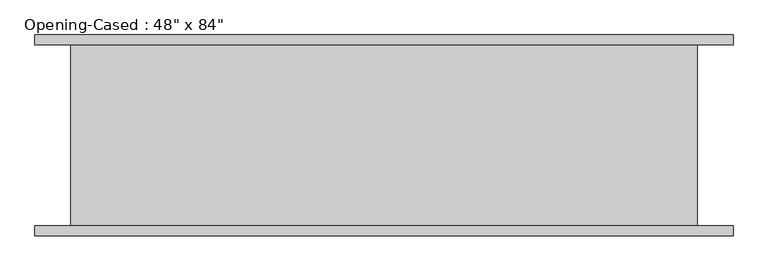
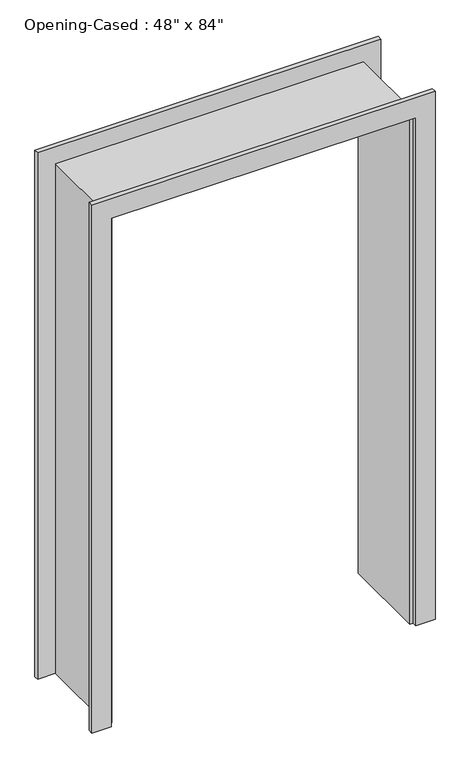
"""IFC4 building model written with IfcOpenShell, lengths in millimetres: proxy geometry."""

from ifc_helpers import new_model, si_unit, frame, origin, place, context, project, spatial, polyline, outline, extrude, faceted_brep, source, transform, mapped, element, save


def proxy_1659ed5c(model_context):
    return source(origin(), model_context, "Body", "SolidModel", [
        extrude(outline(polyline([(0.0, -611.4386567), (2127.25, -611.4386567), (2127.25, 595.0613433), (0.0, 595.0613433), (0.0, 671.2613433), (2203.45, 671.2613433), (2203.45, -687.6386567), (0.0, -687.6386567), (0.0, -611.4386567)])), frame((0.0, 176.2125, 0.0), z_axis=(0.0, 1.0, 0.0), x_axis=(0.0, 0.0, 1.0)), (0.0, 0.0, 1.0), 19.05),
        extrude(outline(polyline([(0.0, 671.2613433), (2209.8, 671.2613433), (2209.8, -687.6386567), (0.0, -687.6386567), (0.0, -611.4386567), (2127.25, -611.4386567), (2127.25, 595.0613433), (0.0, 595.0613433), (0.0, 671.2613433)])), frame((0.0, -195.2625, 0.0), z_axis=(0.0, 1.0, 0.0), x_axis=(0.0, 0.0, 1.0)), (0.0, 0.0, 1.0), 19.05),
        faceted_brep([(582.3613433, -176.2125, 0.0), (582.3613433, 176.2125, 0.0), (601.4113433, 176.2125, 0.0), (601.4113433, -176.2125, 0.0), (601.4113433, -176.2125, 2133.6), (582.3613433, -176.2125, 2114.55), (601.4113433, 176.2125, 2133.6), (582.3613433, 176.2125, 2114.55), (-617.7886567, -176.2125, 2133.6), (-598.7386567, -176.2125, 2114.55), (-617.7886567, 176.2125, 2133.6), (-598.7386567, 176.2125, 2114.55), (-598.7386567, -176.2125, 0.0), (-617.7886567, -176.2125, 0.0), (-617.7886567, 176.2125, 0.0), (-598.7386567, 176.2125, 0.0)], [[[0, 1, 2, 3]], [[3, 4, 5, 0]], [[2, 6, 4, 3]], [[1, 7, 6, 2]], [[0, 5, 7, 1]], [[4, 8, 9, 5]], [[6, 10, 8, 4]], [[7, 11, 10, 6]], [[5, 9, 11, 7]], [[12, 13, 14, 15]], [[8, 13, 12, 9]], [[10, 14, 13, 8]], [[11, 15, 14, 10]], [[9, 12, 15, 11]]]),
    ])


if __name__ == "__main__":
    model = new_model("IFC4")
    model_context = context("Model", 3, world=origin())
    ifc_project = project(units=[si_unit("LENGTHUNIT", "METRE", prefix="MILLI")], contexts=[model_context])
    site = spatial("IfcSite", under=ifc_project)
    building = spatial("IfcBuilding", under=site)
    placement = place(None, origin())
    proxy_shape = proxy_1659ed5c(model_context)
    element("IfcBuildingElementProxy", 1, Name="Opening-Cased : 48\" x 84\"", ObjectType="Opening-Cased : 48\" x 84\"", at=placement, inside=building, context=model_context, shape_type="MappedRepresentation", body=[
        mapped(proxy_shape, transform((0.0, 0.0, 0.0), x_axis=(1.0, 0.0, 0.0), y_axis=(0.0, 1.0, 0.0), z_axis=(0.0, 0.0, 1.0))),
    ])
    save(model, "model.ifc")
